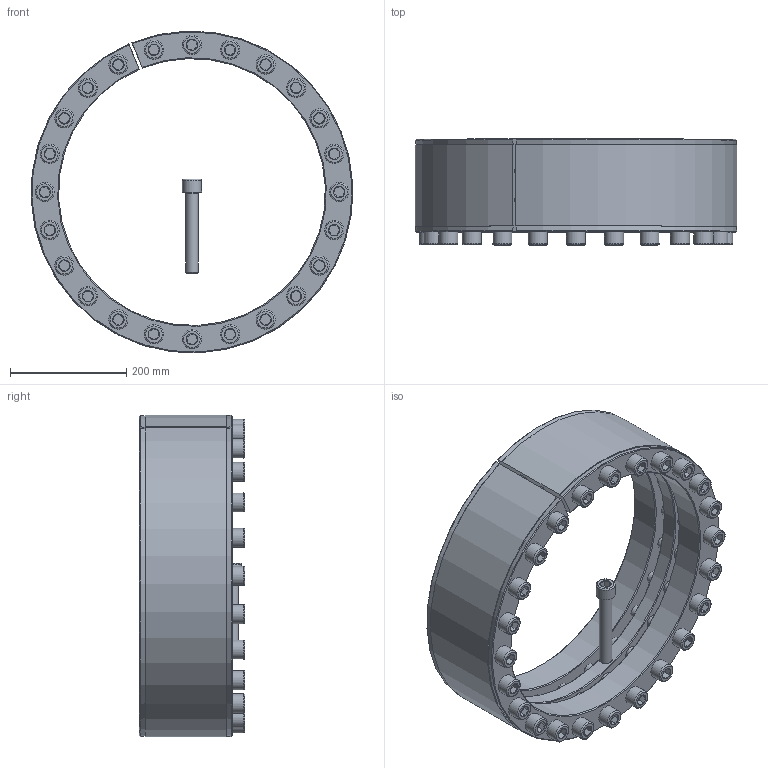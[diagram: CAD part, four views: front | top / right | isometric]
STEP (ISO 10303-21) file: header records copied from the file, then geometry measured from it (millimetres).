
FILE_DESCRIPTION( ( 'Unknown' ), '1' );
FILE_NAME( 'C:/Users/Frank/Eigene Daten/CAD/Solid Edge/KBK Karpstein/KBS Layout Baureihen/KBS 18/KBS 18 - 460 x 555.stp', 'Unknown', ( 'Unknown' ), ( 'Unknown' ), 'XStep 1.0', 'Unknown', ' ' );
FILE_SCHEMA( ( 'automotive_design' ) );
Length unit declared in the file: millimetre
Products named in the file (3): Assem1; ISO EN DIN 4762 M22x140; KBS 18 - 460 x 555
Bounding box: 554.43 x 182 x 554.56 mm (x, y, z)
Volume: 19625097.4 mm3; surface area: 2463240.4 mm2
Topology: 27 solids, 27 shells, 821 faces, 1703 edges, 1036 vertices
Faces by surface type: plane 320, cylinder 252, cone 199, torus 50
Full cylindrical faces by diameter (mm): 18 x25, 19.294 x48, 22 x50, 24 x96, 33 x25
Entity records: 4878 total; most frequent: CARTESIAN_POINT 757, DIRECTION 704, ORIENTED_EDGE 502, EDGE_LOOP 350, AXIS2_PLACEMENT_3D 334, EDGE_CURVE 251, VERTEX_POINT 215, FACE_OUTER_BOUND 201
